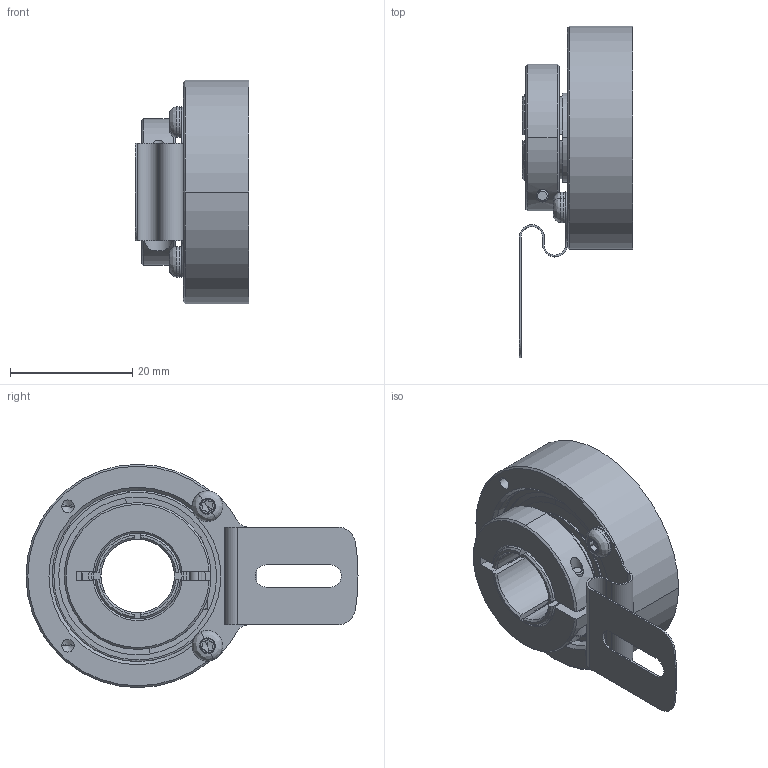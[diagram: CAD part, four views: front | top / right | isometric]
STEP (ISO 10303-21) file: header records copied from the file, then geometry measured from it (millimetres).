
FILE_DESCRIPTION (( 'STEP AP214' ), '1' );
FILE_NAME ('drawing-ucd-vca0-q3a-n.STEP', '2017-01-23T10:02:37', ( '' ), ( '' ), 'SwSTEP 2.0', 'SolidWorks 2015', '' );
FILE_SCHEMA (( 'AUTOMOTIVE_DESIGN' ));
Length unit declared in the file: millimetre
Products named in the file (1): drawing-ucd-vca0-q3a-n
Bounding box: 18.5 x 54.25 x 36.5 mm (x, y, z)
Volume: 9313.3 mm3; surface area: 13032.2 mm2
Topology: 24 solids, 24 shells, 422 faces, 1028 edges, 606 vertices
Faces by surface type: cylinder 136, cone 104, plane 98, bspline 80, torus 4
Entity records: 18990 total; most frequent: CARTESIAN_POINT 4664, DIRECTION 2031, ORIENTED_EDGE 1924, EDGE_CURVE 962, AXIS2_PLACEMENT_3D 855, VERTEX_POINT 606, CIRCLE 512, EDGE_LOOP 468
